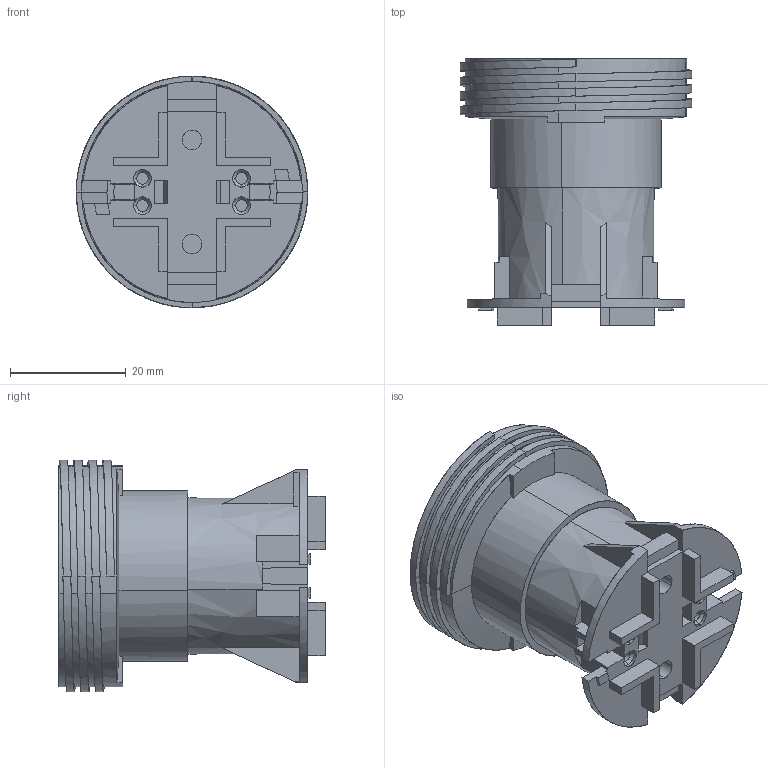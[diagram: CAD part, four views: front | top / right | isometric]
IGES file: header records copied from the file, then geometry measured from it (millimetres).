
Global section: file name: 003YH0LZ02.igs; native system: CT CoreTechnologie 3D Evolution; preprocessor: 2.1; date: 040111.090317; units: millimetre
Bounding box: 40 x 46 x 40 mm (x, y, z)
Surface area: 12309.7 mm2 (no closed solid volume)
Topology: 0 solids, 0 shells, 541 faces, 3086 edges, 3086 vertices
Faces by surface type: bspline 541
